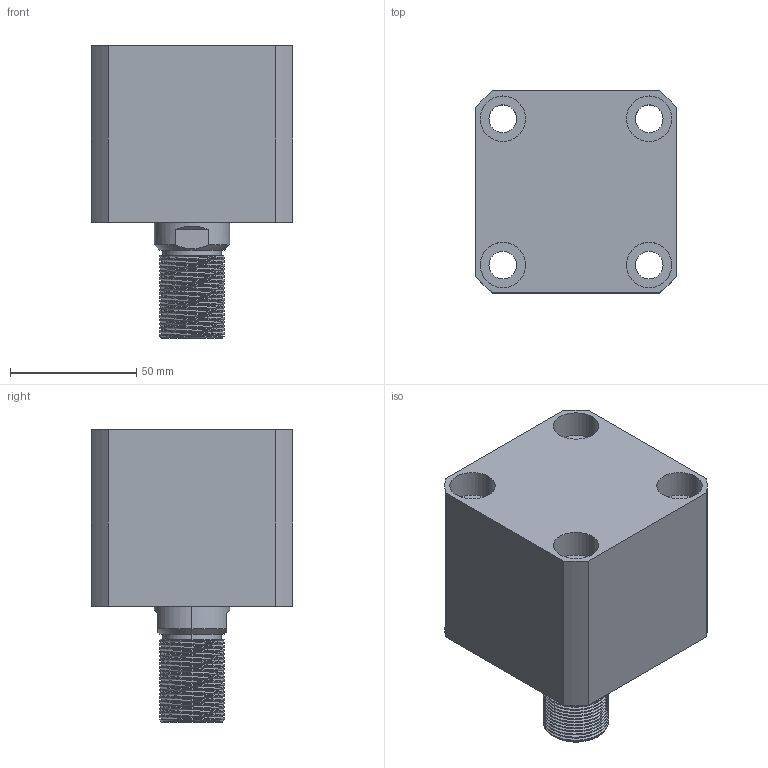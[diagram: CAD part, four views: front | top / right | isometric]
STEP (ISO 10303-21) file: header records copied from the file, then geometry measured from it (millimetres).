
FILE_DESCRIPTION (( 'STEP AP203' ), '1' );
FILE_NAME ('CHTB-SD50-10W.STEP', '2018-05-18T11:39:42', ( '' ), ( '' ), 'SwSTEP 2.0', 'SolidWorks 2015', '' );
FILE_SCHEMA (( 'CONFIG_CONTROL_DESIGN' ));
Length unit declared in the file: millimetre
Products named in the file (4): 掛极SD50-10W; CHTM-SD50QG; 活塞杆SD50-10W; CHTB-SD50-10W
Assembly tree (3 placements, depth 2):
  CHTB-SD50-10W
    掛极SD50-10W
    活塞杆SD50-10W
    CHTM-SD50QG
Bounding box: 80 x 80 x 116 mm (x, y, z)
Volume: 406761.5 mm3; surface area: 88489.3 mm2
Topology: 3 solids, 3 shells, 238 faces, 631 edges, 421 vertices
Faces by surface type: cylinder 144, plane 42, cone 20, bspline 16, torus 16
Entity records: 14638 total; most frequent: CARTESIAN_POINT 8770, ORIENTED_EDGE 1254, DIRECTION 1036, EDGE_CURVE 627, AXIS2_PLACEMENT_3D 424, VERTEX_POINT 421, EDGE_LOOP 278, ADVANCED_FACE 238
